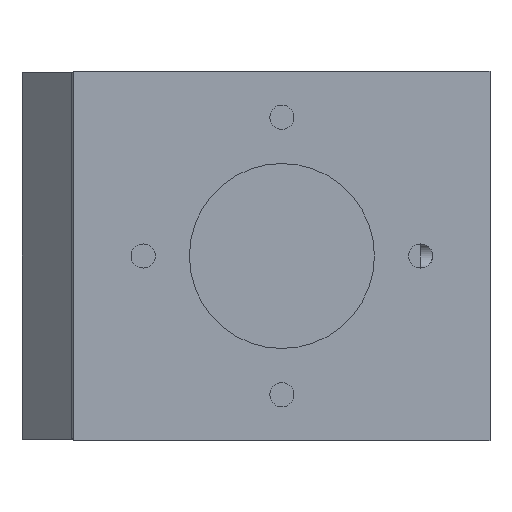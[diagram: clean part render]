
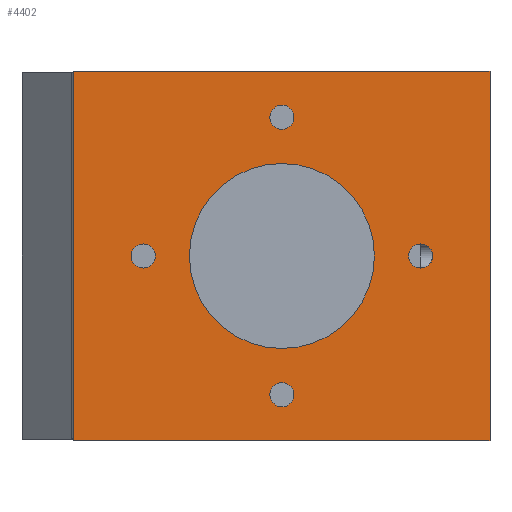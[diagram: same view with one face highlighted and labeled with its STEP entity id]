
A CAD part, left-side view. The second image highlights one B-rep face of the part: STEP entity #4402.
In plain terms, the highlighted planar face has unit normal (-1, 0, 0).
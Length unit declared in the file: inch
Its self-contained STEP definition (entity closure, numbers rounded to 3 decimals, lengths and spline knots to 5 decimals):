
#3 = VERTEX_POINT ( 'NONE', #468 ) ;
#35 = FACE_BOUND ( 'NONE', #8973, .T. ) ;
#283 = CARTESIAN_POINT ( 'NONE',  ( -1.6, -0.975, 1. ) ) ;
#328 = FACE_BOUND ( 'NONE', #11580, .T. ) ;
#365 = ORIENTED_EDGE ( 'NONE', *, *, #3992, .F. ) ;
#368 = DIRECTION ( 'NONE',  ( 0., 0., 1. ) ) ;
#468 = CARTESIAN_POINT ( 'NONE',  ( -1.6, 0.15, -0.685 ) ) ;
#484 = EDGE_CURVE ( 'NONE', #3029, #1625, #3871, .T. ) ;
#1103 = CIRCLE ( 'NONE', #9531, 0.5 ) ;
#1163 = DIRECTION ( 'NONE',  ( -1., 0., 0. ) ) ;
#1219 = DIRECTION ( 'NONE',  ( -1., 0., 0. ) ) ;
#1480 = EDGE_CURVE ( 'NONE', #11027, #11163, #10853, .T. ) ;
#1544 = ORIENTED_EDGE ( 'NONE', *, *, #1480, .F. ) ;
#1547 = AXIS2_PLACEMENT_3D ( 'NONE', #7527, #2170, #8385 ) ;
#1587 = AXIS2_PLACEMENT_3D ( 'NONE', #5548, #1163, #4649 ) ;
#1625 = VERTEX_POINT ( 'NONE', #10612 ) ;
#1637 = ORIENTED_EDGE ( 'NONE', *, *, #8981, .F. ) ;
#1670 = FACE_BOUND ( 'NONE', #5882, .T. ) ;
#1819 = EDGE_CURVE ( 'NONE', #9198, #3, #3849, .T. ) ;
#1846 = EDGE_LOOP ( 'NONE', ( #8741, #8497 ) ) ;
#1967 = ORIENTED_EDGE ( 'NONE', *, *, #9874, .F. ) ;
#2170 = DIRECTION ( 'NONE',  ( -1., 0., 0. ) ) ;
#2232 = DIRECTION ( 'NONE',  ( 0., 0., 1. ) ) ;
#2250 = EDGE_LOOP ( 'NONE', ( #1967, #10724 ) ) ;
#2292 = EDGE_CURVE ( 'NONE', #3, #9198, #9423, .T. ) ;
#2331 = DIRECTION ( 'NONE',  ( -1., 0., 0. ) ) ;
#2407 = CARTESIAN_POINT ( 'NONE',  ( -1.6, 0.15, 0. ) ) ;
#2471 = EDGE_CURVE ( 'NONE', #11163, #11027, #2554, .T. ) ;
#2475 = VERTEX_POINT ( 'NONE', #4790 ) ;
#2554 = CIRCLE ( 'NONE', #1587, 0.065 ) ;
#2689 = DIRECTION ( 'NONE',  ( 0., 0., 1. ) ) ;
#2730 = CARTESIAN_POINT ( 'NONE',  ( -1.6, 0.15, 0.685 ) ) ;
#2737 = CARTESIAN_POINT ( 'NONE',  ( -1.6, -0.6, 0.065 ) ) ;
#2756 = DIRECTION ( 'NONE',  ( 0., -1., 0. ) ) ;
#2805 = CIRCLE ( 'NONE', #2855, 0.5 ) ;
#2855 = AXIS2_PLACEMENT_3D ( 'NONE', #6783, #2331, #2232 ) ;
#3029 = VERTEX_POINT ( 'NONE', #3785 ) ;
#3472 = CARTESIAN_POINT ( 'NONE',  ( -1.6, 0.15, -0.5 ) ) ;
#3504 = CIRCLE ( 'NONE', #1547, 0.065 ) ;
#3727 = VECTOR ( 'NONE', #2756, 39.37008 ) ;
#3785 = CARTESIAN_POINT ( 'NONE',  ( -1.6, 1.275, 1. ) ) ;
#3816 = DIRECTION ( 'NONE',  ( 0., 0., 1. ) ) ;
#3839 = AXIS2_PLACEMENT_3D ( 'NONE', #10856, #7382, #3816 ) ;
#3849 = CIRCLE ( 'NONE', #9676, 0.065 ) ;
#3855 = EDGE_CURVE ( 'NONE', #10077, #2475, #3504, .T. ) ;
#3871 = LINE ( 'NONE', #283, #4134 ) ;
#3936 = ORIENTED_EDGE ( 'NONE', *, *, #10689, .T. ) ;
#3992 = EDGE_CURVE ( 'NONE', #1625, #7559, #6164, .T. ) ;
#4044 = CARTESIAN_POINT ( 'NONE',  ( -1.6, 0.15, -0.815 ) ) ;
#4050 = VERTEX_POINT ( 'NONE', #10687 ) ;
#4132 = LINE ( 'NONE', #9058, #3727 ) ;
#4134 = VECTOR ( 'NONE', #6503, 39.37008 ) ;
#4201 = DIRECTION ( 'NONE',  ( 0., 0., 1. ) ) ;
#4330 = CARTESIAN_POINT ( 'NONE',  ( -1.6, 0.9, 0. ) ) ;
#4392 = EDGE_CURVE ( 'NONE', #5849, #11200, #9374, .T. ) ;
#4402 = ADVANCED_FACE ( 'NONE', ( #35, #328, #6985, #1670, #4612, #7563 ), #7888, .F. ) ;
#4496 = AXIS2_PLACEMENT_3D ( 'NONE', #9521, #9484, #5058 ) ;
#4594 = VERTEX_POINT ( 'NONE', #3472 ) ;
#4612 = FACE_BOUND ( 'NONE', #1846, .T. ) ;
#4649 = DIRECTION ( 'NONE',  ( 0., 0., 1. ) ) ;
#4778 = LINE ( 'NONE', #6303, #6323 ) ;
#4790 = CARTESIAN_POINT ( 'NONE',  ( -1.6, 0.15, 0.815 ) ) ;
#5058 = DIRECTION ( 'NONE',  ( 0., 0., 1. ) ) ;
#5137 = CIRCLE ( 'NONE', #7209, 0.065 ) ;
#5191 = DIRECTION ( 'NONE',  ( 1., 0., 0. ) ) ;
#5311 = DIRECTION ( 'NONE',  ( -1., 0., 0. ) ) ;
#5344 = CARTESIAN_POINT ( 'NONE',  ( -1.6, 0.15, -0.75 ) ) ;
#5456 = ORIENTED_EDGE ( 'NONE', *, *, #2292, .F. ) ;
#5548 = CARTESIAN_POINT ( 'NONE',  ( -1.6, -0.6, 0. ) ) ;
#5592 = ORIENTED_EDGE ( 'NONE', *, *, #8421, .T. ) ;
#5699 = DIRECTION ( 'NONE',  ( 0., 0., 1. ) ) ;
#5849 = VERTEX_POINT ( 'NONE', #9677 ) ;
#5882 = EDGE_LOOP ( 'NONE', ( #5456, #9872 ) ) ;
#6045 = ORIENTED_EDGE ( 'NONE', *, *, #484, .F. ) ;
#6164 = LINE ( 'NONE', #10404, #7575 ) ;
#6292 = CIRCLE ( 'NONE', #8540, 0.065 ) ;
#6303 = CARTESIAN_POINT ( 'NONE',  ( -1.6, 1.275, 1. ) ) ;
#6323 = VECTOR ( 'NONE', #9158, 39.37008 ) ;
#6419 = CARTESIAN_POINT ( 'NONE',  ( -1.6, -0.975, -1. ) ) ;
#6503 = DIRECTION ( 'NONE',  ( 0., -1., 0. ) ) ;
#6783 = CARTESIAN_POINT ( 'NONE',  ( -1.6, 0.15, 0. ) ) ;
#6799 = ORIENTED_EDGE ( 'NONE', *, *, #3855, .F. ) ;
#6873 = AXIS2_PLACEMENT_3D ( 'NONE', #10142, #11064, #368 ) ;
#6985 = FACE_BOUND ( 'NONE', #2250, .T. ) ;
#7209 = AXIS2_PLACEMENT_3D ( 'NONE', #4330, #5311, #10519 ) ;
#7382 = DIRECTION ( 'NONE',  ( -1., 0., 0. ) ) ;
#7527 = CARTESIAN_POINT ( 'NONE',  ( -1.6, 0.15, 0.75 ) ) ;
#7535 = ORIENTED_EDGE ( 'NONE', *, *, #2471, .F. ) ;
#7559 = VERTEX_POINT ( 'NONE', #6419 ) ;
#7563 = FACE_OUTER_BOUND ( 'NONE', #9236, .T. ) ;
#7575 = VECTOR ( 'NONE', #9538, 39.37008 ) ;
#7888 = PLANE ( 'NONE',  #10848 ) ;
#8385 = DIRECTION ( 'NONE',  ( 0., 0., 1. ) ) ;
#8421 = EDGE_CURVE ( 'NONE', #3029, #4050, #4778, .T. ) ;
#8497 = ORIENTED_EDGE ( 'NONE', *, *, #8604, .F. ) ;
#8540 = AXIS2_PLACEMENT_3D ( 'NONE', #11109, #1219, #5699 ) ;
#8604 = EDGE_CURVE ( 'NONE', #4594, #10589, #2805, .T. ) ;
#8701 = DIRECTION ( 'NONE',  ( -1., 0., 0. ) ) ;
#8741 = ORIENTED_EDGE ( 'NONE', *, *, #10408, .F. ) ;
#8755 = CARTESIAN_POINT ( 'NONE',  ( -1.6, -0.6, -0.065 ) ) ;
#8923 = CARTESIAN_POINT ( 'NONE',  ( -1.6, 0.9, 0.065 ) ) ;
#8973 = EDGE_LOOP ( 'NONE', ( #7535, #1544 ) ) ;
#8981 = EDGE_CURVE ( 'NONE', #2475, #10077, #6292, .T. ) ;
#9058 = CARTESIAN_POINT ( 'NONE',  ( -1.6, -0.975, -1. ) ) ;
#9158 = DIRECTION ( 'NONE',  ( 0., 0., -1. ) ) ;
#9198 = VERTEX_POINT ( 'NONE', #4044 ) ;
#9236 = EDGE_LOOP ( 'NONE', ( #5592, #3936, #365, #6045 ) ) ;
#9374 = CIRCLE ( 'NONE', #6873, 0.065 ) ;
#9423 = CIRCLE ( 'NONE', #3839, 0.065 ) ;
#9484 = DIRECTION ( 'NONE',  ( -1., 0., 0. ) ) ;
#9521 = CARTESIAN_POINT ( 'NONE',  ( -1.6, -0.6, 0. ) ) ;
#9531 = AXIS2_PLACEMENT_3D ( 'NONE', #2407, #8701, #4201 ) ;
#9538 = DIRECTION ( 'NONE',  ( 0., 0., -1. ) ) ;
#9676 = AXIS2_PLACEMENT_3D ( 'NONE', #5344, #9974, #2689 ) ;
#9677 = CARTESIAN_POINT ( 'NONE',  ( -1.6, 0.9, -0.065 ) ) ;
#9872 = ORIENTED_EDGE ( 'NONE', *, *, #1819, .F. ) ;
#9874 = EDGE_CURVE ( 'NONE', #11200, #5849, #5137, .T. ) ;
#9974 = DIRECTION ( 'NONE',  ( -1., 0., 0. ) ) ;
#10077 = VERTEX_POINT ( 'NONE', #2730 ) ;
#10142 = CARTESIAN_POINT ( 'NONE',  ( -1.6, 0.9, 0. ) ) ;
#10404 = CARTESIAN_POINT ( 'NONE',  ( -1.6, -0.975, 1. ) ) ;
#10408 = EDGE_CURVE ( 'NONE', #10589, #4594, #1103, .T. ) ;
#10519 = DIRECTION ( 'NONE',  ( 0., 0., 1. ) ) ;
#10553 = CARTESIAN_POINT ( 'NONE',  ( -1.6, -0.975, 1. ) ) ;
#10589 = VERTEX_POINT ( 'NONE', #11530 ) ;
#10612 = CARTESIAN_POINT ( 'NONE',  ( -1.6, -0.975, 1. ) ) ;
#10687 = CARTESIAN_POINT ( 'NONE',  ( -1.6, 1.275, -1. ) ) ;
#10689 = EDGE_CURVE ( 'NONE', #4050, #7559, #4132, .T. ) ;
#10724 = ORIENTED_EDGE ( 'NONE', *, *, #4392, .F. ) ;
#10848 = AXIS2_PLACEMENT_3D ( 'NONE', #10553, #5191, #11363 ) ;
#10853 = CIRCLE ( 'NONE', #4496, 0.065 ) ;
#10856 = CARTESIAN_POINT ( 'NONE',  ( -1.6, 0.15, -0.75 ) ) ;
#11027 = VERTEX_POINT ( 'NONE', #8755 ) ;
#11064 = DIRECTION ( 'NONE',  ( -1., 0., 0. ) ) ;
#11109 = CARTESIAN_POINT ( 'NONE',  ( -1.6, 0.15, 0.75 ) ) ;
#11163 = VERTEX_POINT ( 'NONE', #2737 ) ;
#11200 = VERTEX_POINT ( 'NONE', #8923 ) ;
#11363 = DIRECTION ( 'NONE',  ( 0., 0., -1. ) ) ;
#11530 = CARTESIAN_POINT ( 'NONE',  ( -1.6, 0.15, 0.5 ) ) ;
#11580 = EDGE_LOOP ( 'NONE', ( #1637, #6799 ) ) ;
